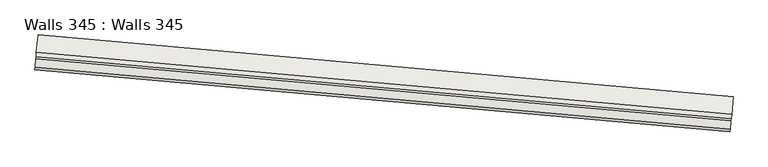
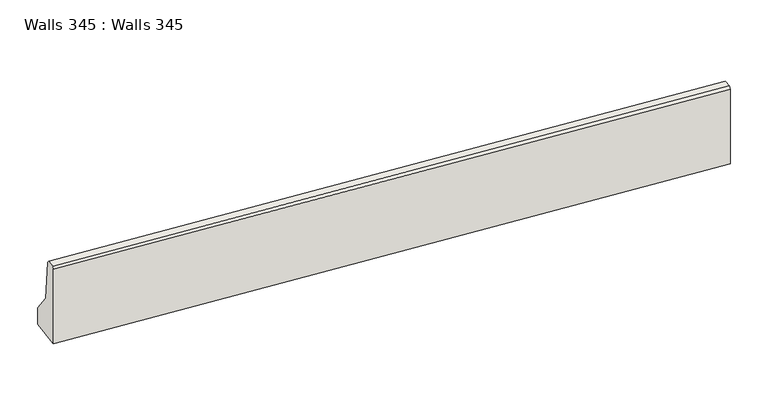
"""IFC4 building model written with IfcOpenShell, lengths in millimetres: wall geometry, Walls 345 : Walls 345."""

from ifc_helpers import new_model, si_unit, frame, origin, place, context, project, spatial, polyline, outline, extrude, source, transform, mapped, element, save


def walls_345_walls_345_712ae60a(model_context):
    return source(origin(), model_context, "Body", "SweptSolid", [
        extrude(outline(polyline([(637180.0, 400.0), (637430.0, 200.0), (637935.0, 150.0000001), (637960.0, 125.0), (637960.0, 25.0), (637935.0, 0.0), (636960.0, 0.0), (636960.0, 400.0), (637180.0, 400.0)])), frame((-750369.3142775, -412231.0213133, 0.0), z_axis=(-0.9960550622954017, 0.08873732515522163, 0.0), x_axis=(0.0, 0.0, 1.0)), (0.0, 0.0, 1.0), 8000.0000001),
    ])


if __name__ == "__main__":
    model = new_model("IFC4")
    model_context = context("Model", 3, world=origin())
    ifc_project = project(units=[si_unit("LENGTHUNIT", "METRE", prefix="MILLI")], contexts=[model_context])
    site = spatial("IfcSite", under=ifc_project)
    building = spatial("IfcBuilding", under=site)
    placement = place(None, origin())
    walls_345_walls_345_shape = walls_345_walls_345_712ae60a(model_context)
    element("IfcWall", 1, ObjectType="Walls 345 : Walls 345", at=placement, inside=building, context=model_context, shape_type="MappedRepresentation", body=[
        mapped(walls_345_walls_345_shape, transform((0.0, 0.0, 0.0), x_axis=(1.0, 0.0, 0.0), y_axis=(0.0, 1.0, 0.0), z_axis=(0.0, 0.0, 1.0))),
    ])
    save(model, "model.ifc")
